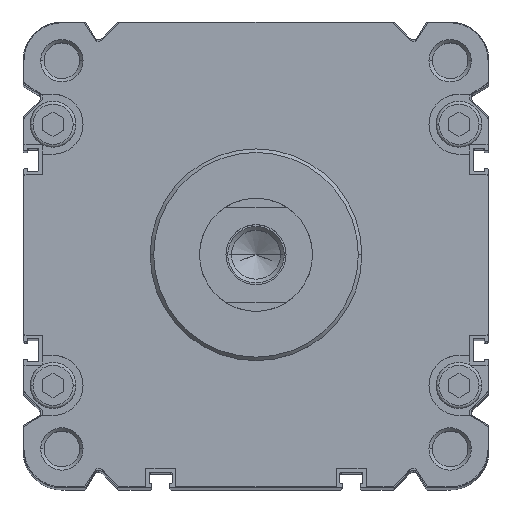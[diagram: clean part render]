
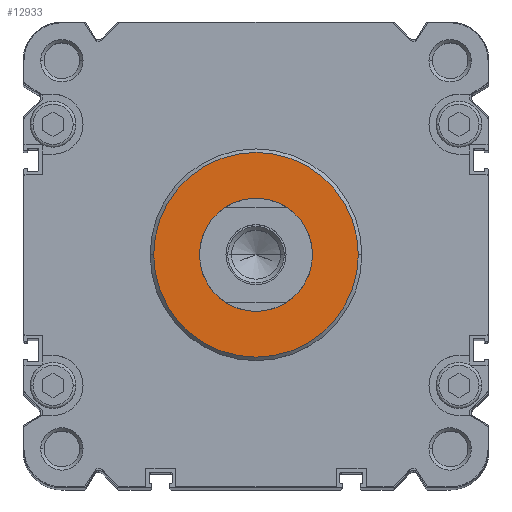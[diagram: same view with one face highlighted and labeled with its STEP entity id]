
A CAD part, top view. The second image highlights one B-rep face of the part: STEP entity #12933.
In plain terms, the highlighted planar face has unit normal (0, 0, 1).
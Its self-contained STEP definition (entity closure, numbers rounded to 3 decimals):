
#174 = VERTEX_POINT ( 'NONE', #17269 ) ;
#440 = CARTESIAN_POINT ( 'NONE',  ( 0., 0., 4. ) ) ;
#1123 = DIRECTION ( 'NONE',  ( 0., 0., 1. ) ) ;
#1218 = PLANE ( 'NONE',  #4767 ) ;
#2587 = DIRECTION ( 'NONE',  ( 1., 0., 0. ) ) ;
#2636 = AXIS2_PLACEMENT_3D ( 'NONE', #6170, #9385, #13023 ) ;
#2996 = CIRCLE ( 'NONE', #5733, 29. ) ;
#3305 = CIRCLE ( 'NONE', #2636, 29. ) ;
#3752 = DIRECTION ( 'NONE',  ( 0., 0., -1. ) ) ;
#4434 = EDGE_CURVE ( 'NONE', #174, #10100, #2996, .T. ) ;
#4530 = VERTEX_POINT ( 'NONE', #14437 ) ;
#4767 = AXIS2_PLACEMENT_3D ( 'NONE', #7737, #1123, #10955 ) ;
#5308 = DIRECTION ( 'NONE',  ( 1., 0., 0. ) ) ;
#5733 = AXIS2_PLACEMENT_3D ( 'NONE', #13601, #20124, #2587 ) ;
#6170 = CARTESIAN_POINT ( 'NONE',  ( 0., 0., 4. ) ) ;
#6535 = CARTESIAN_POINT ( 'NONE',  ( 16., 0., 4. ) ) ;
#6719 = EDGE_LOOP ( 'NONE', ( #7907, #20758 ) ) ;
#7575 = CARTESIAN_POINT ( 'NONE',  ( -29., 0., 4. ) ) ;
#7603 = CIRCLE ( 'NONE', #19547, 16. ) ;
#7737 = CARTESIAN_POINT ( 'NONE',  ( 0., -29., 4. ) ) ;
#7907 = ORIENTED_EDGE ( 'NONE', *, *, #4434, .F. ) ;
#8070 = AXIS2_PLACEMENT_3D ( 'NONE', #10248, #16663, #5308 ) ;
#8483 = EDGE_CURVE ( 'NONE', #19768, #4530, #7603, .T. ) ;
#9385 = DIRECTION ( 'NONE',  ( 0., 0., -1. ) ) ;
#10100 = VERTEX_POINT ( 'NONE', #7575 ) ;
#10248 = CARTESIAN_POINT ( 'NONE',  ( 0., 0., 4. ) ) ;
#10955 = DIRECTION ( 'NONE',  ( -1., 0., 0. ) ) ;
#11033 = EDGE_LOOP ( 'NONE', ( #19428, #17547 ) ) ;
#12557 = FACE_BOUND ( 'NONE', #11033, .T. ) ;
#12933 = ADVANCED_FACE ( 'NONE', ( #15861, #12557 ), #1218, .T. ) ;
#13023 = DIRECTION ( 'NONE',  ( 1., 0., 0. ) ) ;
#13601 = CARTESIAN_POINT ( 'NONE',  ( 0., 0., 4. ) ) ;
#14096 = EDGE_CURVE ( 'NONE', #4530, #19768, #20033, .T. ) ;
#14437 = CARTESIAN_POINT ( 'NONE',  ( -16., 0., 4. ) ) ;
#15861 = FACE_OUTER_BOUND ( 'NONE', #6719, .T. ) ;
#16663 = DIRECTION ( 'NONE',  ( 0., 0., -1. ) ) ;
#16724 = EDGE_CURVE ( 'NONE', #10100, #174, #3305, .T. ) ;
#17269 = CARTESIAN_POINT ( 'NONE',  ( 29., 0., 4. ) ) ;
#17547 = ORIENTED_EDGE ( 'NONE', *, *, #14096, .T. ) ;
#19428 = ORIENTED_EDGE ( 'NONE', *, *, #8483, .T. ) ;
#19547 = AXIS2_PLACEMENT_3D ( 'NONE', #440, #3752, #20005 ) ;
#19768 = VERTEX_POINT ( 'NONE', #6535 ) ;
#20005 = DIRECTION ( 'NONE',  ( 1., 0., 0. ) ) ;
#20033 = CIRCLE ( 'NONE', #8070, 16. ) ;
#20124 = DIRECTION ( 'NONE',  ( 0., 0., -1. ) ) ;
#20758 = ORIENTED_EDGE ( 'NONE', *, *, #16724, .F. ) ;
